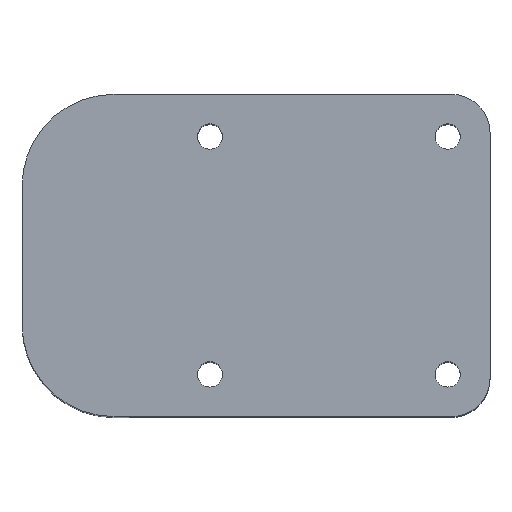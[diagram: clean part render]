
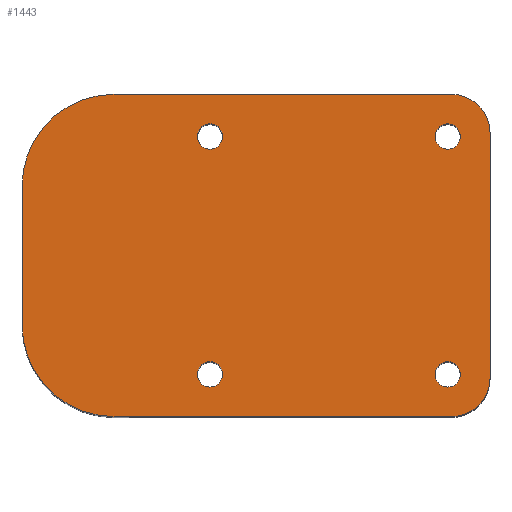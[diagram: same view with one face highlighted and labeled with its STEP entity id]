
A CAD part, top view. The second image highlights one B-rep face of the part: STEP entity #1443.
In plain terms, the highlighted planar face has unit normal (0, 0, 1).
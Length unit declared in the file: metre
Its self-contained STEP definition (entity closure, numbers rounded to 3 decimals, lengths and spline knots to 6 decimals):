
#1443 = ADVANCED_FACE( '', ( #3082, #3083, #3084, #3085, #3086 ), #3087, .F. );
#3082 = FACE_BOUND( '', #4916, .T. );
#3083 = FACE_BOUND( '', #4917, .T. );
#3084 = FACE_BOUND( '', #4918, .T. );
#3085 = FACE_BOUND( '', #4919, .T. );
#3086 = FACE_OUTER_BOUND( '', #4920, .T. );
#3087 = PLANE( '', #4921 );
#4916 = EDGE_LOOP( '', ( #9239 ) );
#4917 = EDGE_LOOP( '', ( #9240 ) );
#4918 = EDGE_LOOP( '', ( #9241 ) );
#4919 = EDGE_LOOP( '', ( #9242 ) );
#4920 = EDGE_LOOP( '', ( #9243, #9244, #9245, #9246, #9247, #9248, #9249, #9250 ) );
#4921 = AXIS2_PLACEMENT_3D( '', #9251, #9252, #9253 );
#9239 = ORIENTED_EDGE( '', *, *, #13286, .F. );
#9240 = ORIENTED_EDGE( '', *, *, #12398, .F. );
#9241 = ORIENTED_EDGE( '', *, *, #12256, .F. );
#9242 = ORIENTED_EDGE( '', *, *, #13287, .F. );
#9243 = ORIENTED_EDGE( '', *, *, #13288, .F. );
#9244 = ORIENTED_EDGE( '', *, *, #13289, .T. );
#9245 = ORIENTED_EDGE( '', *, *, #12986, .F. );
#9246 = ORIENTED_EDGE( '', *, *, #11400, .T. );
#9247 = ORIENTED_EDGE( '', *, *, #13290, .T. );
#9248 = ORIENTED_EDGE( '', *, *, #12138, .T. );
#9249 = ORIENTED_EDGE( '', *, *, #11853, .T. );
#9250 = ORIENTED_EDGE( '', *, *, #12614, .T. );
#9251 = CARTESIAN_POINT( '', ( -0.04, 0., 0.07 ) );
#9252 = DIRECTION( '', ( 0., 0., -1. ) );
#9253 = DIRECTION( '', ( 0., 1., 0. ) );
#11400 = EDGE_CURVE( '', #13762, #13763, #13764, .F. );
#11853 = EDGE_CURVE( '', #14582, #14580, #14583, .T. );
#12138 = EDGE_CURVE( '', #15050, #14582, #15051, .F. );
#12256 = EDGE_CURVE( '', #15241, #15241, #15242, .F. );
#12398 = EDGE_CURVE( '', #15465, #15465, #15466, .F. );
#12614 = EDGE_CURVE( '', #14580, #15796, #15797, .F. );
#12986 = EDGE_CURVE( '', #13762, #16353, #16354, .T. );
#13286 = EDGE_CURVE( '', #16746, #16746, #16747, .F. );
#13287 = EDGE_CURVE( '', #16748, #16748, #16749, .F. );
#13288 = EDGE_CURVE( '', #16750, #15796, #16751, .T. );
#13289 = EDGE_CURVE( '', #16750, #16353, #16752, .F. );
#13290 = EDGE_CURVE( '', #13763, #15050, #16753, .T. );
#13762 = VERTEX_POINT( '', #17296 );
#13763 = VERTEX_POINT( '', #17297 );
#13764 = CIRCLE( '', #17298, 0.012 );
#14580 = VERTEX_POINT( '', #18497 );
#14582 = VERTEX_POINT( '', #18500 );
#14583 = LINE( '', #18501, #18502 );
#15050 = VERTEX_POINT( '', #19188 );
#15051 = CIRCLE( '', #19189, 0.005 );
#15241 = VERTEX_POINT( '', #19467 );
#15242 = CIRCLE( '', #19468, 0.00165 );
#15465 = VERTEX_POINT( '', #19807 );
#15466 = CIRCLE( '', #19808, 0.00165 );
#15796 = VERTEX_POINT( '', #20291 );
#15797 = CIRCLE( '', #20292, 0.005 );
#16353 = VERTEX_POINT( '', #21134 );
#16354 = LINE( '', #21135, #21136 );
#16746 = VERTEX_POINT( '', #21733 );
#16747 = CIRCLE( '', #21734, 0.00165 );
#16748 = VERTEX_POINT( '', #21735 );
#16749 = CIRCLE( '', #21736, 0.00165 );
#16750 = VERTEX_POINT( '', #21737 );
#16751 = LINE( '', #21738, #21739 );
#16752 = CIRCLE( '', #21740, 0.012 );
#16753 = LINE( '', #21741, #21742 );
#17296 = CARTESIAN_POINT( '', ( -0.04, -0.009, 0.07 ) );
#17297 = CARTESIAN_POINT( '', ( -0.028, -0.021, 0.07 ) );
#17298 = AXIS2_PLACEMENT_3D( '', #22496, #22497, #22498 );
#18497 = CARTESIAN_POINT( '', ( 0.021, 0.016, 0.07 ) );
#18500 = CARTESIAN_POINT( '', ( 0.021, -0.016, 0.07 ) );
#18501 = CARTESIAN_POINT( '', ( 0.021, 0., 0.07 ) );
#18502 = VECTOR( '', #22892, 1. );
#19188 = CARTESIAN_POINT( '', ( 0.016, -0.021, 0.07 ) );
#19189 = AXIS2_PLACEMENT_3D( '', #23136, #23137, #23138 );
#19467 = CARTESIAN_POINT( '', ( 0.0155, 0.01715, 0.07 ) );
#19468 = AXIS2_PLACEMENT_3D( '', #23227, #23228, #23229 );
#19807 = CARTESIAN_POINT( '', ( 0.0155, -0.01385, 0.07 ) );
#19808 = AXIS2_PLACEMENT_3D( '', #23346, #23347, #23348 );
#20291 = CARTESIAN_POINT( '', ( 0.016, 0.021, 0.07 ) );
#20292 = AXIS2_PLACEMENT_3D( '', #23514, #23515, #23516 );
#21134 = CARTESIAN_POINT( '', ( -0.04, 0.009, 0.07 ) );
#21135 = CARTESIAN_POINT( '', ( -0.04, 0., 0.07 ) );
#21136 = VECTOR( '', #23815, 1. );
#21733 = CARTESIAN_POINT( '', ( -0.0155, -0.01385, 0.07 ) );
#21734 = AXIS2_PLACEMENT_3D( '', #24027, #24028, #24029 );
#21735 = CARTESIAN_POINT( '', ( -0.0155, 0.01715, 0.07 ) );
#21736 = AXIS2_PLACEMENT_3D( '', #24030, #24031, #24032 );
#21737 = CARTESIAN_POINT( '', ( -0.028, 0.021, 0.07 ) );
#21738 = CARTESIAN_POINT( '', ( -0.04, 0.021, 0.07 ) );
#21739 = VECTOR( '', #24033, 1. );
#21740 = AXIS2_PLACEMENT_3D( '', #24034, #24035, #24036 );
#21741 = CARTESIAN_POINT( '', ( -0.04, -0.021, 0.07 ) );
#21742 = VECTOR( '', #24037, 1. );
#22496 = CARTESIAN_POINT( '', ( -0.028, -0.009, 0.07 ) );
#22497 = DIRECTION( '', ( 0., 0., -1. ) );
#22498 = DIRECTION( '', ( 0., 1., 0. ) );
#22892 = DIRECTION( '', ( 0., 1., 0. ) );
#23136 = CARTESIAN_POINT( '', ( 0.016, -0.016, 0.07 ) );
#23137 = DIRECTION( '', ( 0., 0., -1. ) );
#23138 = DIRECTION( '', ( 0., 1., 0. ) );
#23227 = CARTESIAN_POINT( '', ( 0.0155, 0.0155, 0.07 ) );
#23228 = DIRECTION( '', ( 0., 0., -1. ) );
#23229 = DIRECTION( '', ( 0., 1., 0. ) );
#23346 = CARTESIAN_POINT( '', ( 0.0155, -0.0155, 0.07 ) );
#23347 = DIRECTION( '', ( 0., 0., -1. ) );
#23348 = DIRECTION( '', ( 0., 1., 0. ) );
#23514 = CARTESIAN_POINT( '', ( 0.016, 0.016, 0.07 ) );
#23515 = DIRECTION( '', ( 0., 0., -1. ) );
#23516 = DIRECTION( '', ( 0., 1., 0. ) );
#23815 = DIRECTION( '', ( 0., 1., 0. ) );
#24027 = CARTESIAN_POINT( '', ( -0.0155, -0.0155, 0.07 ) );
#24028 = DIRECTION( '', ( 0., 0., -1. ) );
#24029 = DIRECTION( '', ( 0., 1., 0. ) );
#24030 = CARTESIAN_POINT( '', ( -0.0155, 0.0155, 0.07 ) );
#24031 = DIRECTION( '', ( 0., 0., -1. ) );
#24032 = DIRECTION( '', ( 0., 1., 0. ) );
#24033 = DIRECTION( '', ( 1., 0., 0. ) );
#24034 = CARTESIAN_POINT( '', ( -0.028, 0.009, 0.07 ) );
#24035 = DIRECTION( '', ( 0., 0., -1. ) );
#24036 = DIRECTION( '', ( 0., 1., 0. ) );
#24037 = DIRECTION( '', ( 1., 0., 0. ) );
